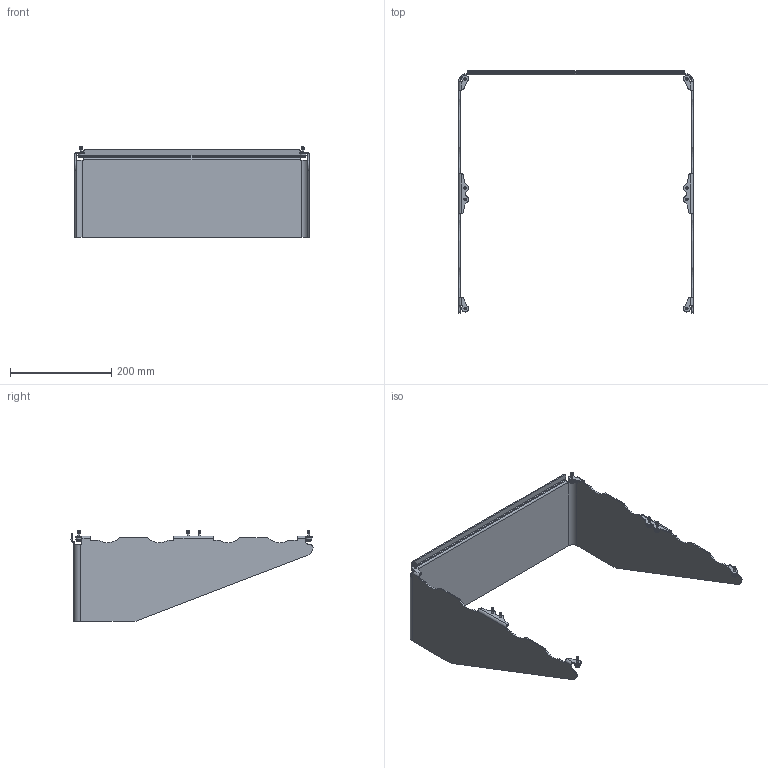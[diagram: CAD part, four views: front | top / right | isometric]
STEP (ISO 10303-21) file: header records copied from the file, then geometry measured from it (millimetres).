
FILE_DESCRIPTION((''),'2;1');
FILE_NAME('F2NVISOR_SW','2021-04-16T14:06:11',('gatsonnb'),(''),'CREO PARAMETRIC BY PTC INC, 2019080','CREO PARAMETRIC BY PTC INC, 2019080','');
FILE_SCHEMA(('CONFIG_CONTROL_DESIGN'));
Products named in the file (1): F2NVISOR_SW
Bounding box: 463.19 x 478.46 x 179.55 mm (x, y, z)
Volume: 447088.2 mm3; surface area: 386892.8 mm2
Topology: 1 solids, 1 shells, 992 faces, 2688 edges, 1744 vertices
Faces by surface type: plane 436, cylinder 412, cone 64, torus 64, bspline 16
Entity records: 72084 total; most frequent: CARTESIAN_POINT 48072, ORIENTED_EDGE 5376, DIRECTION 4456, EDGE_CURVE 2688, VERTEX_POINT 1744, AXIS2_PLACEMENT_3D 1504, VECTOR 1448, LINE 1448
